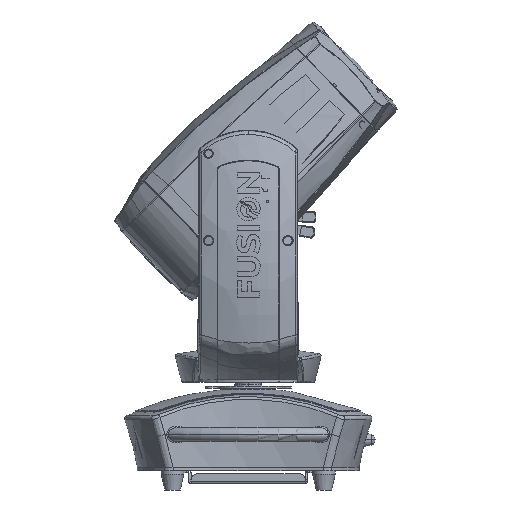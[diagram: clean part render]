
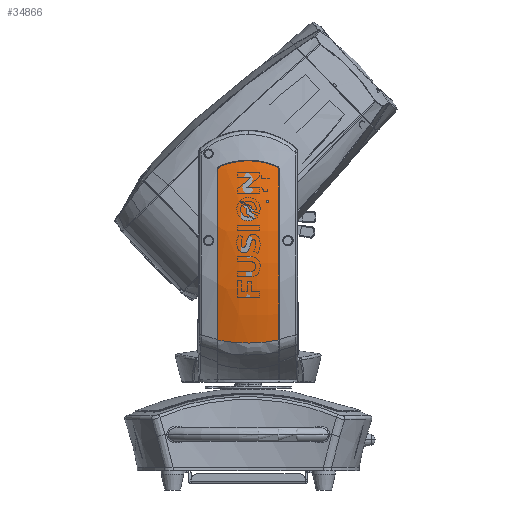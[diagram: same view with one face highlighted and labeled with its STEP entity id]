
A CAD part, front view. The second image highlights one B-rep face of the part: STEP entity #34866.
In plain terms, the highlighted toroidal (fillet/blend) face has major radius 8981.86 mm and minor radius 5130.8 mm.
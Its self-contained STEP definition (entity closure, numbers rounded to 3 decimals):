
#32028=CARTESIAN_POINT('',(995.528,9289.625,7434.215));
#32029=DIRECTION('',(1.,0.,0.));
#32030=DIRECTION('',(0.,-0.985,0.172));
#32031=AXIS2_PLACEMENT_3D('',#32028,#32029,#32030);
#32033=CARTESIAN_POINT('',(995.528,9289.625,7434.215));
#32034=DIRECTION('',(1.,0.,0.));
#32035=DIRECTION('',(0.,-0.999,-0.045));
#32036=AXIS2_PLACEMENT_3D('',#32033,#32034,#32035);
#32038=CARTESIAN_POINT('',(995.528,-4364.803,
4274.923));
#32039=CARTESIAN_POINT('',(886.504,-4381.641,
4252.039));
#32040=CARTESIAN_POINT('',(666.867,-4409.848,
4214.177));
#32041=CARTESIAN_POINT('',(333.678,-4435.3,
4179.995));
#32042=CARTESIAN_POINT('',(111.194,-4440.965,
4172.606));
#32043=CARTESIAN_POINT('',(0.,-4440.965,
4172.606));
#32045=CARTESIAN_POINT('',(0.,-4440.965,
4172.606));
#32046=CARTESIAN_POINT('',(-111.194,-4440.966,
4172.606));
#32047=CARTESIAN_POINT('',(-333.678,-4435.301,
4179.999));
#32048=CARTESIAN_POINT('',(-666.866,-4409.85,
4214.185));
#32049=CARTESIAN_POINT('',(-886.504,-4381.643,
4252.043));
#32050=CARTESIAN_POINT('',(-995.528,-4364.804,
4274.927));
#32052=CARTESIAN_POINT('',(-995.528,9289.625,
7434.215));
#32053=DIRECTION('',(-1.,0.,0.));
#32054=DIRECTION('',(0.,-0.974,-0.225));
#32055=AXIS2_PLACEMENT_3D('',#32052,#32053,#32054);
#32057=CARTESIAN_POINT('',(-995.528,-4516.162,
9847.671));
#32058=CARTESIAN_POINT('',(-995.528,-4514.379,
9857.874));
#32059=CARTESIAN_POINT('',(-992.561,-4511.558,
9877.292));
#32060=CARTESIAN_POINT('',(-979.967,-4509.242,
9904.407));
#32061=CARTESIAN_POINT('',(-960.043,-4509.152,
9926.61));
#32062=CARTESIAN_POINT('',(-943.431,-4510.447,
9936.993));
#32063=CARTESIAN_POINT('',(-934.102,-4511.469,
9941.033));
#32065=CARTESIAN_POINT('',(-934.102,-4511.469,
9941.033));
#32066=CARTESIAN_POINT('',(-839.222,-4521.859,
9982.123));
#32067=CARTESIAN_POINT('',(-643.522,-4540.244,
10052.593));
#32068=CARTESIAN_POINT('',(-313.765,-4558.628,
10121.404));
#32069=CARTESIAN_POINT('',(-104.561,-4562.28,
10134.571));
#32070=CARTESIAN_POINT('',(0.,-4562.28,
10134.571));
#32072=CARTESIAN_POINT('',(0.,-4562.28,
10134.571));
#32073=CARTESIAN_POINT('',(112.185,-4562.28,
10134.571));
#32074=CARTESIAN_POINT('',(331.559,-4558.1,
10119.486));
#32075=CARTESIAN_POINT('',(665.362,-4538.498,
10046.009));
#32076=CARTESIAN_POINT('',(848.142,-4520.883,
9978.26));
#32077=CARTESIAN_POINT('',(934.102,-4511.469,
9941.033));
#32079=CARTESIAN_POINT('',(934.102,-4511.469,
9941.033));
#32080=CARTESIAN_POINT('',(943.452,-4510.445,
9936.983));
#32081=CARTESIAN_POINT('',(960.084,-4509.15,
9926.577));
#32082=CARTESIAN_POINT('',(979.968,-4509.245,
9904.392));
#32083=CARTESIAN_POINT('',(992.54,-4511.552,
9877.353));
#32084=CARTESIAN_POINT('',(995.528,-4514.374,
9857.901));
#32085=CARTESIAN_POINT('',(995.528,-4516.162,
9847.672));
#34328=CARTESIAN_POINT('',(995.528,-4711.479,
6806.818));
#34329=CARTESIAN_POINT('',(995.528,-4364.803,
4274.921));
#34330=VERTEX_POINT('',#34328);
#34331=VERTEX_POINT('',#34329);
#34332=CARTESIAN_POINT('',(995.528,-4516.162,
9847.672));
#34333=VERTEX_POINT('',#34332);
#34334=VERTEX_POINT('',#32043);
#34335=VERTEX_POINT('',#32050);
#34336=CARTESIAN_POINT('',(-995.528,-4516.162,
9847.672));
#34337=VERTEX_POINT('',#34336);
#34338=VERTEX_POINT('',#32063);
#34339=VERTEX_POINT('',#32070);
#34340=VERTEX_POINT('',#32077);
#34843=CARTESIAN_POINT('',(0.,9289.625,7434.215));
#34844=DIRECTION('',(-1.,0.,0.));
#34845=DIRECTION('',(0.,0.966,0.258));
#34846=AXIS2_PLACEMENT_3D('',#34843,#34844,#34845);
#34847=TOROIDAL_SURFACE('',#34846,8981.861,5130.8);
#34848=ORIENTED_EDGE('',*,*,#34832,.T.);
#34849=ORIENTED_EDGE('',*,*,#34830,.T.);
#34851=ORIENTED_EDGE('',*,*,#34850,.T.);
#34853=ORIENTED_EDGE('',*,*,#34852,.T.);
#34855=ORIENTED_EDGE('',*,*,#34854,.T.);
#34857=ORIENTED_EDGE('',*,*,#34856,.T.);
#34859=ORIENTED_EDGE('',*,*,#34858,.T.);
#34861=ORIENTED_EDGE('',*,*,#34860,.T.);
#34863=ORIENTED_EDGE('',*,*,#34862,.T.);
#34864=EDGE_LOOP('',(#34848,#34849,#34851,#34853,#34855,#34857,#34859,#34861,
#34863));
#34865=FACE_OUTER_BOUND('',#34864,.F.);
#32032=CIRCLE('',#32031,14015.153);
#32037=CIRCLE('',#32036,14015.153);
#32044=B_SPLINE_CURVE_WITH_KNOTS('',3,(#32038,#32039,#32040,#32041,#32042,
#32043),.UNSPECIFIED.,.F.,.F.,(4,1,1,4),(0.,0.333,
0.667,1.),.UNSPECIFIED.);
#32051=B_SPLINE_CURVE_WITH_KNOTS('',3,(#32045,#32046,#32047,#32048,#32049,
#32050),.UNSPECIFIED.,.F.,.F.,(4,1,1,4),(0.,0.333,
0.667,1.),.UNSPECIFIED.);
#32056=CIRCLE('',#32055,14015.153);
#32064=B_SPLINE_CURVE_WITH_KNOTS('',3,(#32057,#32058,#32059,#32060,#32061,
#32062,#32063),.UNSPECIFIED.,.F.,.F.,(4,1,1,1,4),(0.,0.25,0.5,0.75,
1.),.UNSPECIFIED.);
#32071=B_SPLINE_CURVE_WITH_KNOTS('',3,(#32065,#32066,#32067,#32068,#32069,
#32070),.UNSPECIFIED.,.F.,.F.,(4,1,1,4),(0.,0.333,
0.667,1.),.UNSPECIFIED.);
#32078=B_SPLINE_CURVE_WITH_KNOTS('',3,(#32072,#32073,#32074,#32075,#32076,
#32077),.UNSPECIFIED.,.F.,.F.,(4,1,1,4),(0.,0.333,
0.667,1.),.UNSPECIFIED.);
#32086=B_SPLINE_CURVE_WITH_KNOTS('',3,(#32079,#32080,#32081,#32082,#32083,
#32084,#32085),.UNSPECIFIED.,.F.,.F.,(4,1,1,1,4),(0.,0.25,0.5,0.75,
1.),.UNSPECIFIED.);
#34830=EDGE_CURVE('',#34330,#34331,#32037,.T.);
#34832=EDGE_CURVE('',#34333,#34330,#32032,.T.);
#34850=EDGE_CURVE('',#34331,#34334,#32044,.T.);
#34852=EDGE_CURVE('',#34334,#34335,#32051,.T.);
#34854=EDGE_CURVE('',#34335,#34337,#32056,.T.);
#34856=EDGE_CURVE('',#34337,#34338,#32064,.T.);
#34858=EDGE_CURVE('',#34338,#34339,#32071,.T.);
#34860=EDGE_CURVE('',#34339,#34340,#32078,.T.);
#34862=EDGE_CURVE('',#34340,#34333,#32086,.T.);
#34866=ADVANCED_FACE('',(#34865),#34847,.T.);
